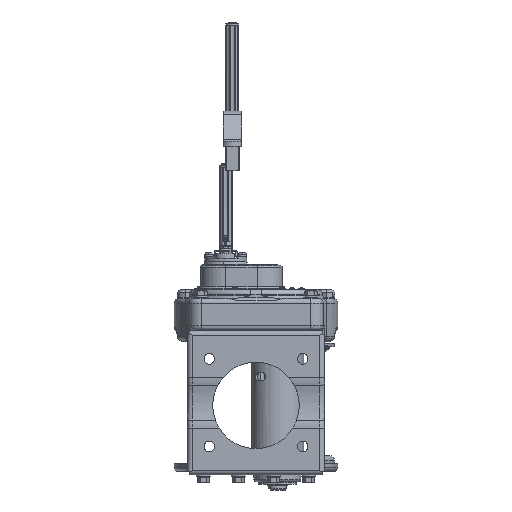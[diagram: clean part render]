
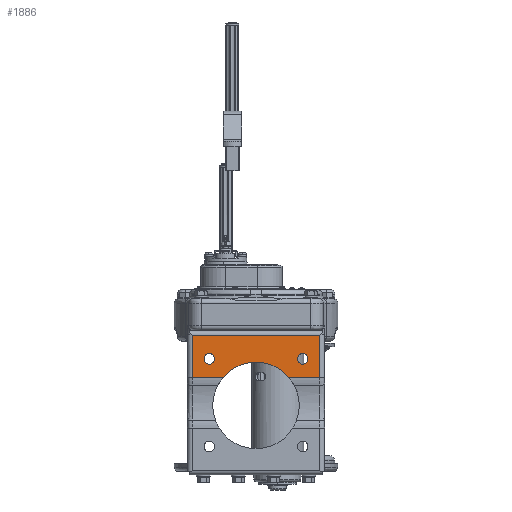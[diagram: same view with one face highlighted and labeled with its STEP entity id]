
A CAD part, front view. The second image highlights one B-rep face of the part: STEP entity #1886.
In plain terms, the highlighted planar face has unit normal (0, -1, 0).
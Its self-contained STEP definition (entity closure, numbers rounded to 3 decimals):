
#1886=ADVANCED_FACE('',(#20645,#20646,#20647),#20644,.F.);
#20644=PLANE('',#45602);
#20645=FACE_OUTER_BOUND('',#45603,.T.);
#20646=FACE_BOUND('',#45604,.T.);
#20647=FACE_BOUND('',#45605,.T.);
#45599=CARTESIAN_POINT('',(-127.722,-108.7,-182.168));
#45600=DIRECTION('',(0.,1.,0.));
#45601=DIRECTION('',(0.,0.,-1.));
#45602=AXIS2_PLACEMENT_3D('',#45599,#45600,#45601);
#45603=EDGE_LOOP('',(#65004,#65005,#65006,#65007,#65008,#65009,#65010));
#45604=EDGE_LOOP('',(#65011,#65012));
#45605=EDGE_LOOP('',(#65013,#65014));
#65004=ORIENTED_EDGE('',*,*,#76490,.T.);
#65005=ORIENTED_EDGE('',*,*,#76491,.T.);
#65006=ORIENTED_EDGE('',*,*,#76492,.T.);
#65007=ORIENTED_EDGE('',*,*,#76493,.T.);
#65008=ORIENTED_EDGE('',*,*,#74185,.T.);
#65009=ORIENTED_EDGE('',*,*,#76494,.F.);
#65010=ORIENTED_EDGE('',*,*,#74251,.F.);
#65011=ORIENTED_EDGE('',*,*,#76495,.T.);
#65012=ORIENTED_EDGE('',*,*,#76496,.T.);
#65013=ORIENTED_EDGE('',*,*,#76497,.T.);
#65014=ORIENTED_EDGE('',*,*,#76498,.T.);
#74185=EDGE_CURVE('',#98197,#98275,#98282,.T.);
#74251=EDGE_CURVE('',#98669,#98727,#98728,.T.);
#76490=EDGE_CURVE('',#98669,#113695,#113696,.T.);
#76491=EDGE_CURVE('',#113695,#113702,#113703,.T.);
#76492=EDGE_CURVE('',#113702,#113709,#113710,.T.);
#76493=EDGE_CURVE('',#113709,#98197,#113716,.T.);
#76494=EDGE_CURVE('',#98727,#98275,#113722,.T.);
#76495=EDGE_CURVE('',#113728,#113729,#113730,.T.);
#76496=EDGE_CURVE('',#113729,#113728,#113736,.T.);
#76497=EDGE_CURVE('',#113742,#113743,#113744,.T.);
#76498=EDGE_CURVE('',#113743,#113742,#113750,.T.);
#98197=VERTEX_POINT('',#141604);
#98275=VERTEX_POINT('',#141651);
#98282=LINE('',#141655,#141656);
#98669=VERTEX_POINT('',#141902);
#98727=VERTEX_POINT('',#141938);
#98728=LINE('',#141939,#141940);
#113695=VERTEX_POINT('',#153527);
#113696=LINE('',#153528,#153529);
#113702=VERTEX_POINT('',#153531);
#113703=CIRCLE('',#153535,74.);
#113709=VERTEX_POINT('',#153536);
#113710=CIRCLE('',#153540,74.);
#113716=LINE('',#153541,#153542);
#113722=LINE('',#153544,#153545);
#113728=VERTEX_POINT('',#153547);
#113729=VERTEX_POINT('',#153548);
#113730=CIRCLE('',#153552,9.);
#113736=CIRCLE('',#153556,9.);
#113742=VERTEX_POINT('',#153557);
#113743=VERTEX_POINT('',#153558);
#113744=CIRCLE('',#153562,9.);
#113750=CIRCLE('',#153566,9.);
#141604=CARTESIAN_POINT('',(-137.722,-108.7,-261.321));
#141651=CARTESIAN_POINT('',(-137.722,-108.7,-189.364));
#141655=CARTESIAN_POINT('',(-137.722,-108.7,-261.321));
#141656=VECTOR('',#141657,71.957);
#141657=DIRECTION('',(0.,0.,1.));
#141902=CARTESIAN_POINT('',(-356.722,-108.7,-261.321));
#141938=CARTESIAN_POINT('',(-356.722,-108.7,-189.364));
#141939=CARTESIAN_POINT('',(-356.722,-108.7,-261.321));
#141940=VECTOR('',#141941,71.957);
#141941=DIRECTION('',(0.,0.,1.));
#153527=CARTESIAN_POINT('',(-303.505,-108.7,-261.321));
#153528=CARTESIAN_POINT('',(-356.722,-108.7,-261.321));
#153529=VECTOR('',#153530,53.216);
#153530=DIRECTION('',(1.,0.,0.));
#153531=CARTESIAN_POINT('',(-247.222,-108.7,-235.364));
#153532=CARTESIAN_POINT('',(-247.222,-108.7,-309.364));
#153533=DIRECTION('',(0.,1.,0.));
#153534=DIRECTION('',(-0.761,0.,0.649));
#153535=AXIS2_PLACEMENT_3D('',#153532,#153533,#153534);
#153536=CARTESIAN_POINT('',(-190.938,-108.7,-261.321));
#153537=CARTESIAN_POINT('',(-247.222,-108.7,-309.364));
#153538=DIRECTION('',(0.,1.,0.));
#153539=DIRECTION('',(-0.761,0.,0.649));
#153540=AXIS2_PLACEMENT_3D('',#153537,#153538,#153539);
#153541=CARTESIAN_POINT('',(-190.938,-108.7,-261.321));
#153542=VECTOR('',#153543,53.216);
#153543=DIRECTION('',(1.,0.,0.));
#153544=CARTESIAN_POINT('',(-356.722,-108.7,-189.364));
#153545=VECTOR('',#153546,219.);
#153546=DIRECTION('',(1.,0.,0.));
#153547=CARTESIAN_POINT('',(-167.222,-108.7,-238.864));
#153548=CARTESIAN_POINT('',(-167.222,-108.7,-220.864));
#153549=CARTESIAN_POINT('',(-167.222,-108.7,-229.864));
#153550=DIRECTION('',(0.,1.,0.));
#153551=DIRECTION('',(0.,0.,-1.));
#153552=AXIS2_PLACEMENT_3D('',#153549,#153550,#153551);
#153553=CARTESIAN_POINT('',(-167.222,-108.7,-229.864));
#153554=DIRECTION('',(0.,1.,0.));
#153555=DIRECTION('',(0.,0.,-1.));
#153556=AXIS2_PLACEMENT_3D('',#153553,#153554,#153555);
#153557=CARTESIAN_POINT('',(-327.222,-108.7,-238.864));
#153558=CARTESIAN_POINT('',(-327.222,-108.7,-220.864));
#153559=CARTESIAN_POINT('',(-327.222,-108.7,-229.864));
#153560=DIRECTION('',(0.,1.,0.));
#153561=DIRECTION('',(0.,0.,-1.));
#153562=AXIS2_PLACEMENT_3D('',#153559,#153560,#153561);
#153563=CARTESIAN_POINT('',(-327.222,-108.7,-229.864));
#153564=DIRECTION('',(0.,1.,0.));
#153565=DIRECTION('',(0.,0.,-1.));
#153566=AXIS2_PLACEMENT_3D('',#153563,#153564,#153565);
